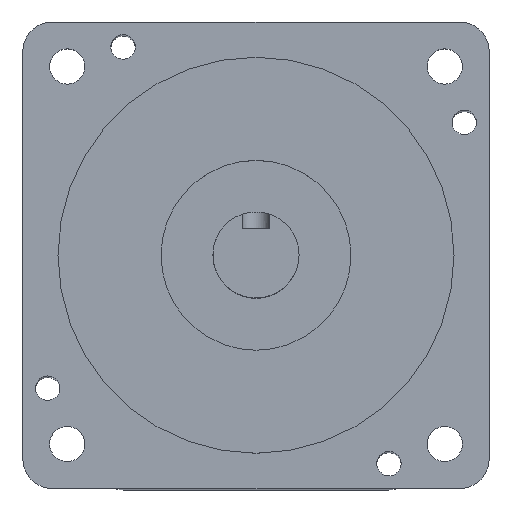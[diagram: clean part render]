
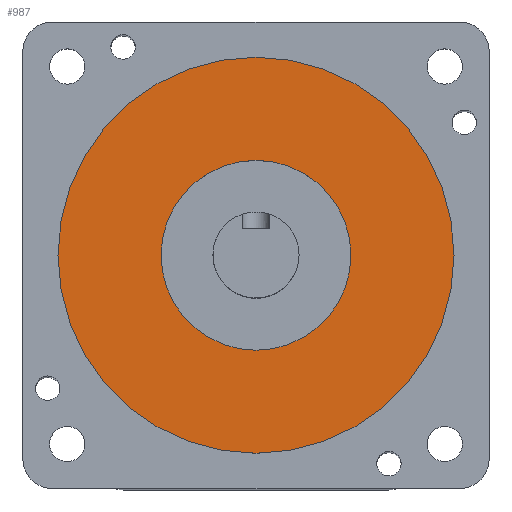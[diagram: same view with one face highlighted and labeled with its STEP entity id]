
A CAD part, top view. The second image highlights one B-rep face of the part: STEP entity #987.
In plain terms, the highlighted planar face has unit normal (0, 0, 1).
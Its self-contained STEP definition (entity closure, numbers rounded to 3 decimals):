
#230=FACE_BOUND('',#338,.T.);
#267=FACE_OUTER_BOUND('',#337,.T.);
#337=EDGE_LOOP('',(#860));
#338=EDGE_LOOP('',(#861));
#405=CIRCLE('',#1110,36.5);
#406=CIRCLE('',#1112,17.5);
#493=VERTEX_POINT('',#1668);
#494=VERTEX_POINT('',#1672);
#620=EDGE_CURVE('',#493,#493,#405,.T.);
#621=EDGE_CURVE('',#494,#494,#406,.T.);
#860=ORIENTED_EDGE('',*,*,#620,.T.);
#861=ORIENTED_EDGE('',*,*,#621,.F.);
#946=PLANE('',#1111);
#987=ADVANCED_FACE('',(#267,#230),#946,.T.);
#1110=AXIS2_PLACEMENT_3D('',#1670,#1372,#1373);
#1111=AXIS2_PLACEMENT_3D('',#1671,#1374,#1375);
#1112=AXIS2_PLACEMENT_3D('',#1673,#1376,#1377);
#1372=DIRECTION('center_axis',(0.,0.,1.));
#1373=DIRECTION('ref_axis',(1.,0.,0.));
#1374=DIRECTION('center_axis',(0.,0.,1.));
#1375=DIRECTION('ref_axis',(1.,0.,0.));
#1376=DIRECTION('center_axis',(0.,0.,1.));
#1377=DIRECTION('ref_axis',(1.,0.,0.));
#1668=CARTESIAN_POINT('',(36.5,0.,10.));
#1670=CARTESIAN_POINT('Origin',(0.,0.,10.));
#1671=CARTESIAN_POINT('Origin',(0.,0.,10.));
#1672=CARTESIAN_POINT('',(-17.5,0.,10.));
#1673=CARTESIAN_POINT('Origin',(0.,0.,10.));
